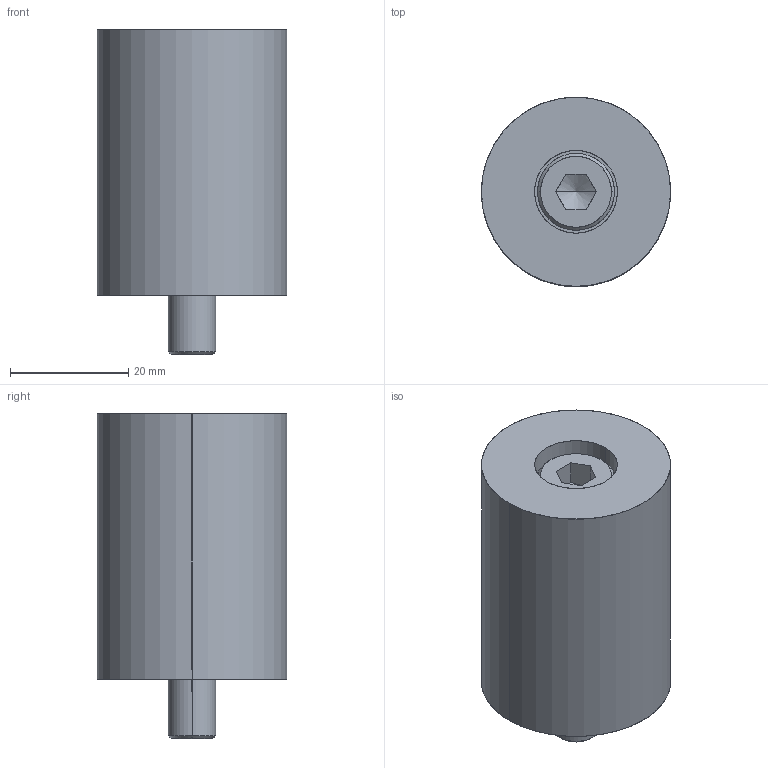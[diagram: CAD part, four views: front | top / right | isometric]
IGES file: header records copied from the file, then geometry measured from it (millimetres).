
Start section: SolidWorks IGES file using analytic representation for surfaces
Global section: file name: D:\Current\W1\TPD\c1\TPD32-45-1\TPD32-45-1.IGS; native system: SolidWorks 2017; preprocessor: SolidWorks 2017; author: Ravi Kalvai; date: 240605.183303; units: millimetre
Bounding box: 32 x 32 x 55 mm (x, y, z)
Surface area: 9188.7 mm2 (no closed solid volume)
Topology: 0 solids, 0 shells, 29 faces, 538 edges, 538 vertices
Faces by surface type: revolution 16, bspline 13
